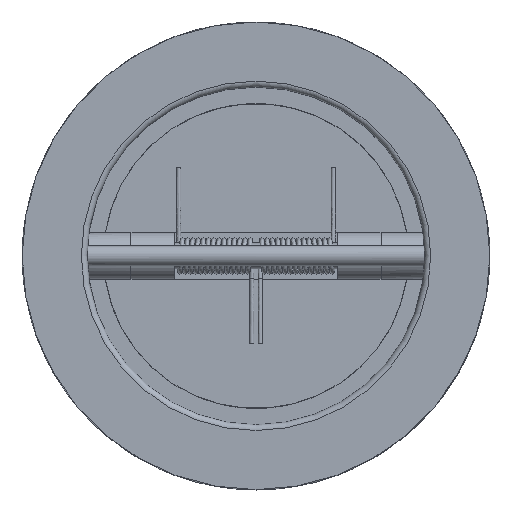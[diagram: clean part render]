
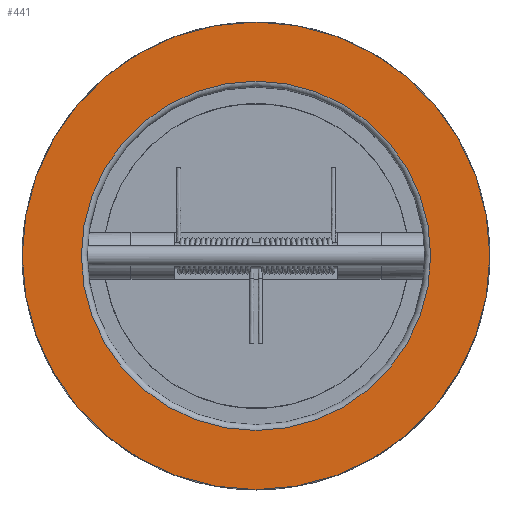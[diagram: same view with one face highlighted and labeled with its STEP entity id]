
A CAD part, top view. The second image highlights one B-rep face of the part: STEP entity #441.
In plain terms, the highlighted planar face has unit normal (0, 0, 1).
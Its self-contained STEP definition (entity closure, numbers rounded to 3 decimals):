
#441 = ADVANCED_FACE( '', ( #1103, #1104 ), #1105, .F. );
#1103 = FACE_BOUND( '', #3455, .T. );
#1104 = FACE_OUTER_BOUND( '', #3456, .T. );
#1105 = PLANE( '', #3457 );
#3455 = EDGE_LOOP( '', ( #11630 ) );
#3456 = EDGE_LOOP( '', ( #11631 ) );
#3457 = AXIS2_PLACEMENT_3D( '', #11632, #11633, #11634 );
#11630 = ORIENTED_EDGE( '', *, *, #13378, .T. );
#11631 = ORIENTED_EDGE( '', *, *, #13291, .F. );
#11632 = CARTESIAN_POINT( '', ( 0., 0., 32. ) );
#11633 = DIRECTION( '', ( 0., 0., -1. ) );
#11634 = DIRECTION( '', ( -1., 0., 0. ) );
#13291 = EDGE_CURVE( '', #14366, #14366, #14367, .T. );
#13378 = EDGE_CURVE( '', #14497, #14497, #14498, .T. );
#14366 = VERTEX_POINT( '', #18268 );
#14367 = CIRCLE( '', #18269, 81. );
#14497 = VERTEX_POINT( '', #18781 );
#14498 = CIRCLE( '', #18782, 60.5 );
#18268 = CARTESIAN_POINT( '', ( 81., 0., 32. ) );
#18269 = AXIS2_PLACEMENT_3D( '', #21946, #21947, #21948 );
#18781 = CARTESIAN_POINT( '', ( -60.5, 0., 32. ) );
#18782 = AXIS2_PLACEMENT_3D( '', #21998, #21999, #22000 );
#21946 = CARTESIAN_POINT( '', ( 0., 0., 32. ) );
#21947 = DIRECTION( '', ( 0., 0., -1. ) );
#21948 = DIRECTION( '', ( 1., 0., 0. ) );
#21998 = CARTESIAN_POINT( '', ( 0., 0., 32. ) );
#21999 = DIRECTION( '', ( 0., 0., -1. ) );
#22000 = DIRECTION( '', ( -1., 0., 0. ) );
